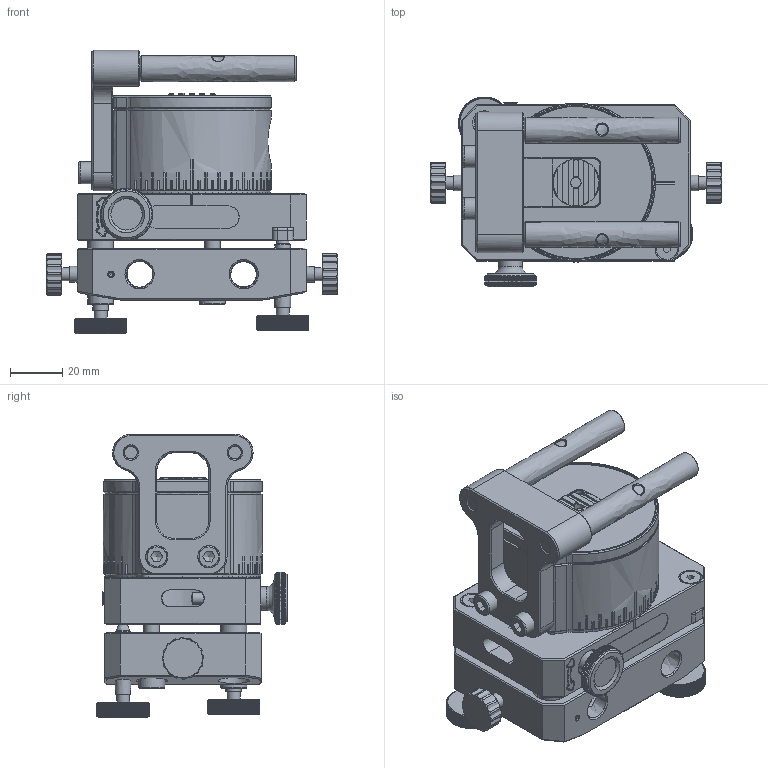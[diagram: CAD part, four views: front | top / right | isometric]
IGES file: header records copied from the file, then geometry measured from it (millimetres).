
Global section: file name: C:\Users\cm142052\OneDrive - Renishaw plc\Documents\LCPD\XK10\Lightweight Models\Parallelism Stage\LM-9936-0149 XK PENTAPRISM OPTIC.igs; native system: NX V1926; preprocessor: SIEMENS PLM Software NX 1942; date: 20210318.100255; units: millimetre
Bounding box: 111.88 x 72.99 x 108.81 mm (x, y, z)
Surface area: 75002.1 mm2 (no closed solid volume)
Topology: 0 solids, 0 shells, 3043 faces, 18576 edges, 18479 vertices
Faces by surface type: bspline 3043
